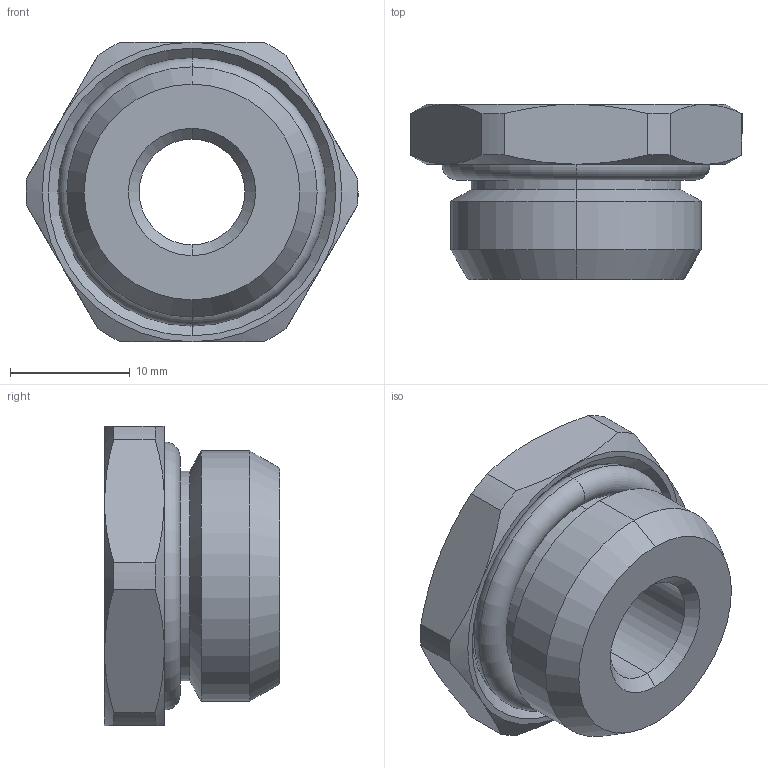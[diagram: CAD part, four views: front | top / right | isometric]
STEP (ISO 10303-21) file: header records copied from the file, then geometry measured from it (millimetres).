
FILE_DESCRIPTION (( 'STEP AP214' ), '1' );
FILE_NAME ('0209200009.STEP', '2016-05-23T15:27:57', ( '' ), ( '' ), 'SwSTEP 2.0', 'SolidWorks 2016', '' );
FILE_SCHEMA (( 'AUTOMOTIVE_DESIGN' ));
Length unit declared in the file: millimetre
Products named in the file (1): 0209200009
Bounding box: 27.69 x 14.6 x 25 mm (x, y, z)
Surface area: 2959.5 mm2 (no closed solid volume)
Topology: 0 solids, 2 shells, 50 faces, 112 edges, 66 vertices
Faces by surface type: cone 22, cylinder 12, plane 10, torus 6
Entity records: 2066 total; most frequent: CARTESIAN_POINT 381, DIRECTION 250, ORIENTED_EDGE 220, EDGE_CURVE 112, AXIS2_PLACEMENT_3D 111, VERTEX_POINT 66, CIRCLE 60, EDGE_LOOP 54
